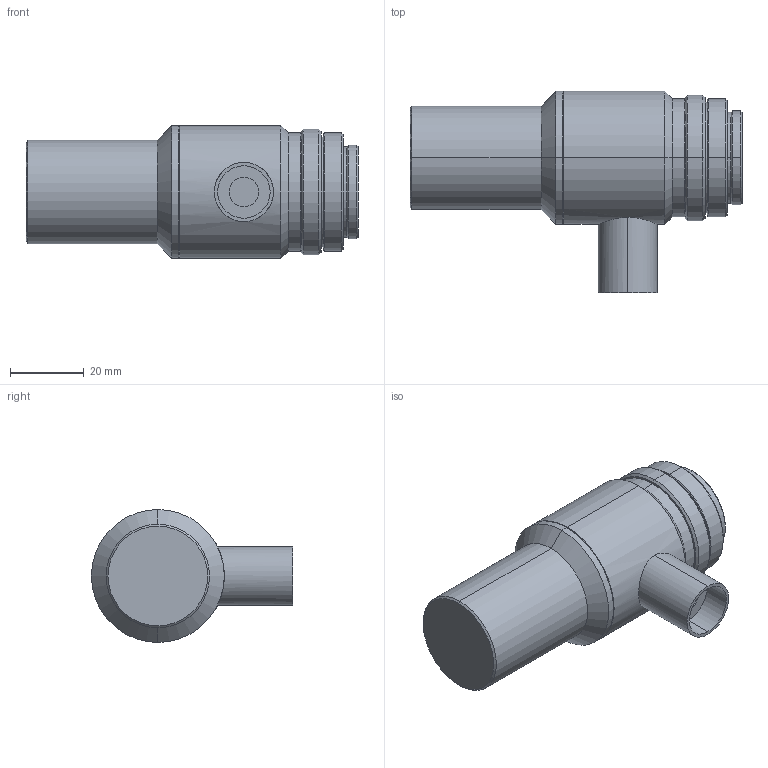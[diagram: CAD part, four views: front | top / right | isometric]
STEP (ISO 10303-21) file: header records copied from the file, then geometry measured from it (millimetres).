
FILE_DESCRIPTION (( 'STEP AP203' ), '1' );
FILE_NAME ('VS-TCM075-65CO_S.STEP', '2017-10-02T10:19:36', ( '' ), ( '' ), 'SwSTEP 2.0', 'SolidWorks 2017', '' );
FILE_SCHEMA (( 'CONFIG_CONTROL_DESIGN' ));
Length unit declared in the file: millimetre
Products named in the file (1): VS-TCM075-65CO_S
Bounding box: 89.9 x 54.5 x 36 mm (x, y, z)
Volume: 73587.1 mm3; surface area: 12409.1 mm2
Topology: 1 solids, 1 shells, 59 faces, 116 edges, 66 vertices
Faces by surface type: cone 26, cylinder 24, plane 9
Entity records: 1671 total; most frequent: CARTESIAN_POINT 338, DIRECTION 298, ORIENTED_EDGE 232, AXIS2_PLACEMENT_3D 124, EDGE_CURVE 116, VERTEX_POINT 66, EDGE_LOOP 66, CIRCLE 64
